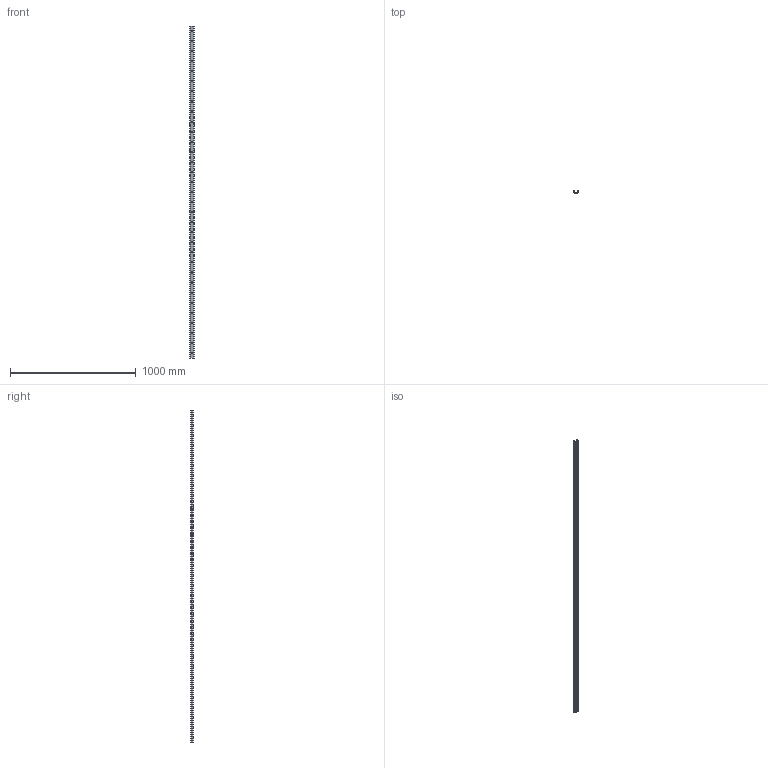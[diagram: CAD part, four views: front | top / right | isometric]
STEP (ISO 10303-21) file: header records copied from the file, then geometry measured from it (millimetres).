
FILE_DESCRIPTION(('STEP AP214'),'1');
FILE_NAME('rail_tex40-2640.stp','2019-03-08T08:33:41',('TraceParts'),('TraceParts S.A.'),'Spatial InterOp 3D',' ',' ');
FILE_SCHEMA(('automotive_design'));
Length unit declared in the file: millimetre
Products named in the file (1): rail_tex40-2640
Bounding box: 39.53 x 21 x 2640 mm (x, y, z)
Volume: 516162.1 mm3; surface area: 363588 mm2
Topology: 1 solids, 1 shells, 582 faces, 1509 edges, 1006 vertices
Faces by surface type: plane 409, bspline 95, cylinder 78
Entity records: 36980 total; most frequent: CARTESIAN_POINT 18381, ORIENTED_EDGE 3018, DIRECTION 2451, EDGE_CURVE 1509, LINE 1163, VECTOR 1163, VERTEX_POINT 1006, EDGE_LOOP 725
